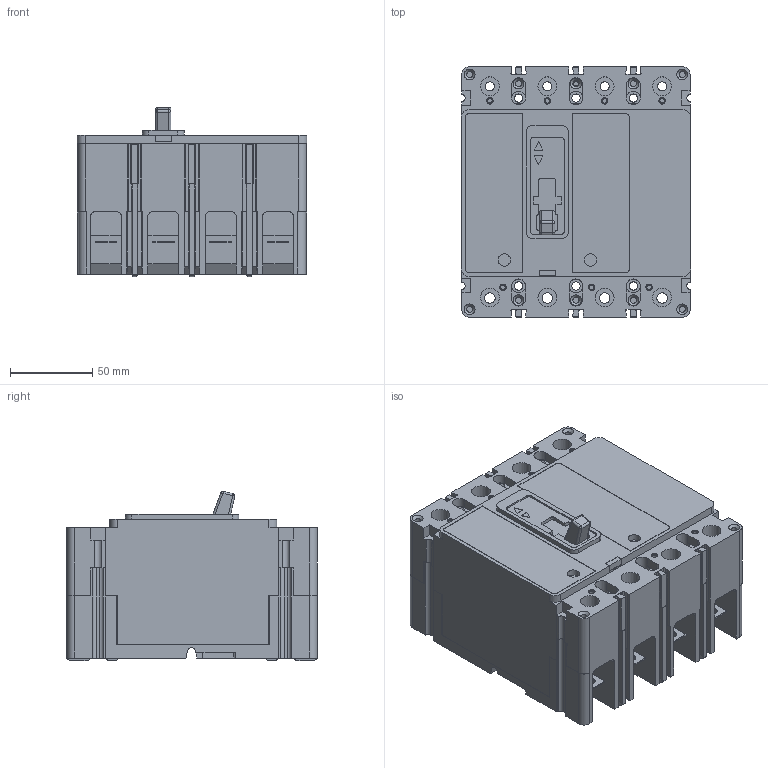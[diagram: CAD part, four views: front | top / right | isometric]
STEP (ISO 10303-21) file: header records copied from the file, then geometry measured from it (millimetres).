
FILE_DESCRIPTION((''),'2;1');
FILE_NAME('C:\Users\E0021267\Desktop\CAD Model Project\ECO-074990 - FD FIXES - In Process\FDB4_.stp','2014-12-09T17:19:29',('E0021267'),(''),'Autodesk Inventor 2013','Autodesk Inventor 2013','');
FILE_SCHEMA(('AUTOMOTIVE_DESIGN { 1 2 10303 214 0 1 1 1 }'));
Length unit declared in the file: inch
Products named in the file (1): FDB4_
Bounding box: 139.73 x 152.4 x 103.01 mm (x, y, z)
Volume: 1524285.8 mm3; surface area: 157660.6 mm2
Topology: 1 solids, 5 shells, 1132 faces, 3088 edges, 2018 vertices
Faces by surface type: plane 856, cylinder 246, cone 14, torus 12, sphere 4
Full cylindrical faces by diameter (mm): 2.794 x7, 2.896 x1, 3.683 x10, 3.962 x7, 4.064 x1, 5.004 x6, 5.563 x4, 6.35 x9, 7.493 x2, 8.331 x6, 8.484 x3, 8.738 x6, 11.43 x8
Entity records: 36389 total; most frequent: CARTESIAN_POINT 6423, ORIENTED_EDGE 5958, DIRECTION 5884, EDGE_CURVE 2979, VECTOR 2280, LINE 2280, VERTEX_POINT 1993, AXIS2_PLACEMENT_3D 1802
